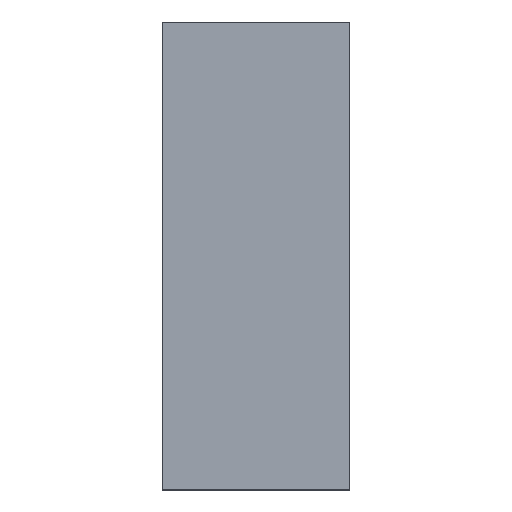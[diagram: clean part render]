
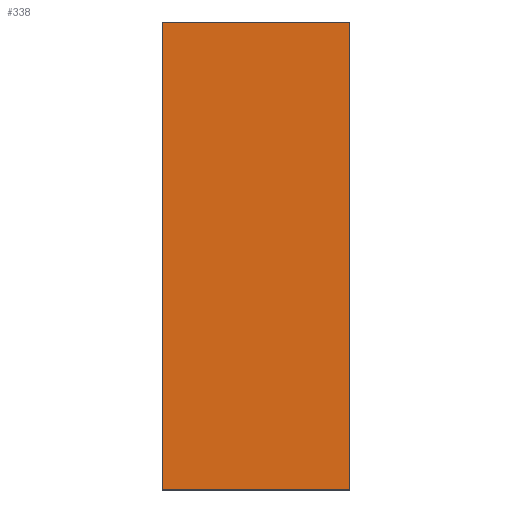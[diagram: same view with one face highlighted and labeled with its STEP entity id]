
A CAD part, top view. The second image highlights one B-rep face of the part: STEP entity #338.
In plain terms, the highlighted planar face has unit normal (0, 0, 1).
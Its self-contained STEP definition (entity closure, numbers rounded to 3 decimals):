
#24 = VERTEX_POINT('',#25);
#25 = CARTESIAN_POINT('',(-310.,-50.,-55.));
#32 = PLANE('',#33);
#33 = AXIS2_PLACEMENT_3D('',#34,#35,#36);
#34 = CARTESIAN_POINT('',(-310.,-50.,-67.));
#35 = DIRECTION('',(1.,0.,-0.));
#36 = DIRECTION('',(0.,0.,1.));
#44 = PLANE('',#45);
#45 = AXIS2_PLACEMENT_3D('',#46,#47,#48);
#46 = CARTESIAN_POINT('',(-310.,-50.,-67.));
#47 = DIRECTION('',(-0.,1.,0.));
#48 = DIRECTION('',(0.,0.,1.));
#85 = VERTEX_POINT('',#86);
#86 = CARTESIAN_POINT('',(-310.,50.,-55.));
#100 = PLANE('',#101);
#101 = AXIS2_PLACEMENT_3D('',#102,#103,#104);
#102 = CARTESIAN_POINT('',(-310.,50.,-67.));
#103 = DIRECTION('',(-0.,1.,0.));
#104 = DIRECTION('',(0.,0.,1.));
#112 = EDGE_CURVE('',#24,#85,#113,.T.);
#113 = SURFACE_CURVE('',#114,(#118,#125),.PCURVE_S1.);
#114 = LINE('',#115,#116);
#115 = CARTESIAN_POINT('',(-310.,-50.,-55.));
#116 = VECTOR('',#117,1.);
#117 = DIRECTION('',(-0.,1.,0.));
#118 = PCURVE('',#32,#119);
#119 = DEFINITIONAL_REPRESENTATION('',(#120),#124);
#120 = LINE('',#121,#122);
#121 = CARTESIAN_POINT('',(12.,0.));
#122 = VECTOR('',#123,1.);
#123 = DIRECTION('',(0.,-1.));
#124 = ( GEOMETRIC_REPRESENTATION_CONTEXT(2) 
PARAMETRIC_REPRESENTATION_CONTEXT() REPRESENTATION_CONTEXT('2D SPACE',''
  ) );
#125 = PCURVE('',#126,#131);
#126 = PLANE('',#127);
#127 = AXIS2_PLACEMENT_3D('',#128,#129,#130);
#128 = CARTESIAN_POINT('',(-310.,-50.,-55.));
#129 = DIRECTION('',(0.,0.,1.));
#130 = DIRECTION('',(1.,0.,-0.));
#131 = DEFINITIONAL_REPRESENTATION('',(#132),#136);
#132 = LINE('',#133,#134);
#133 = CARTESIAN_POINT('',(0.,0.));
#134 = VECTOR('',#135,1.);
#135 = DIRECTION('',(0.,1.));
#136 = ( GEOMETRIC_REPRESENTATION_CONTEXT(2) 
PARAMETRIC_REPRESENTATION_CONTEXT() REPRESENTATION_CONTEXT('2D SPACE',''
  ) );
#144 = VERTEX_POINT('',#145);
#145 = CARTESIAN_POINT('',(-270.,-50.,-55.));
#152 = PLANE('',#153);
#153 = AXIS2_PLACEMENT_3D('',#154,#155,#156);
#154 = CARTESIAN_POINT('',(-270.,-50.,-67.));
#155 = DIRECTION('',(1.,0.,-0.));
#156 = DIRECTION('',(0.,0.,1.));
#195 = VERTEX_POINT('',#196);
#196 = CARTESIAN_POINT('',(-270.,50.,-55.));
#217 = EDGE_CURVE('',#144,#195,#218,.T.);
#218 = SURFACE_CURVE('',#219,(#223,#230),.PCURVE_S1.);
#219 = LINE('',#220,#221);
#220 = CARTESIAN_POINT('',(-270.,-50.,-55.));
#221 = VECTOR('',#222,1.);
#222 = DIRECTION('',(-0.,1.,0.));
#223 = PCURVE('',#152,#224);
#224 = DEFINITIONAL_REPRESENTATION('',(#225),#229);
#225 = LINE('',#226,#227);
#226 = CARTESIAN_POINT('',(12.,0.));
#227 = VECTOR('',#228,1.);
#228 = DIRECTION('',(0.,-1.));
#229 = ( GEOMETRIC_REPRESENTATION_CONTEXT(2) 
PARAMETRIC_REPRESENTATION_CONTEXT() REPRESENTATION_CONTEXT('2D SPACE',''
  ) );
#230 = PCURVE('',#126,#231);
#231 = DEFINITIONAL_REPRESENTATION('',(#232),#236);
#232 = LINE('',#233,#234);
#233 = CARTESIAN_POINT('',(40.,0.));
#234 = VECTOR('',#235,1.);
#235 = DIRECTION('',(0.,1.));
#236 = ( GEOMETRIC_REPRESENTATION_CONTEXT(2) 
PARAMETRIC_REPRESENTATION_CONTEXT() REPRESENTATION_CONTEXT('2D SPACE',''
  ) );
#263 = EDGE_CURVE('',#24,#144,#264,.T.);
#264 = SURFACE_CURVE('',#265,(#269,#276),.PCURVE_S1.);
#265 = LINE('',#266,#267);
#266 = CARTESIAN_POINT('',(-310.,-50.,-55.));
#267 = VECTOR('',#268,1.);
#268 = DIRECTION('',(1.,0.,-0.));
#269 = PCURVE('',#44,#270);
#270 = DEFINITIONAL_REPRESENTATION('',(#271),#275);
#271 = LINE('',#272,#273);
#272 = CARTESIAN_POINT('',(12.,0.));
#273 = VECTOR('',#274,1.);
#274 = DIRECTION('',(0.,1.));
#275 = ( GEOMETRIC_REPRESENTATION_CONTEXT(2) 
PARAMETRIC_REPRESENTATION_CONTEXT() REPRESENTATION_CONTEXT('2D SPACE',''
  ) );
#276 = PCURVE('',#126,#277);
#277 = DEFINITIONAL_REPRESENTATION('',(#278),#282);
#278 = LINE('',#279,#280);
#279 = CARTESIAN_POINT('',(0.,0.));
#280 = VECTOR('',#281,1.);
#281 = DIRECTION('',(1.,0.));
#282 = ( GEOMETRIC_REPRESENTATION_CONTEXT(2) 
PARAMETRIC_REPRESENTATION_CONTEXT() REPRESENTATION_CONTEXT('2D SPACE',''
  ) );
#310 = EDGE_CURVE('',#85,#195,#311,.T.);
#311 = SURFACE_CURVE('',#312,(#316,#323),.PCURVE_S1.);
#312 = LINE('',#313,#314);
#313 = CARTESIAN_POINT('',(-310.,50.,-55.));
#314 = VECTOR('',#315,1.);
#315 = DIRECTION('',(1.,0.,-0.));
#316 = PCURVE('',#100,#317);
#317 = DEFINITIONAL_REPRESENTATION('',(#318),#322);
#318 = LINE('',#319,#320);
#319 = CARTESIAN_POINT('',(12.,0.));
#320 = VECTOR('',#321,1.);
#321 = DIRECTION('',(0.,1.));
#322 = ( GEOMETRIC_REPRESENTATION_CONTEXT(2) 
PARAMETRIC_REPRESENTATION_CONTEXT() REPRESENTATION_CONTEXT('2D SPACE',''
  ) );
#323 = PCURVE('',#126,#324);
#324 = DEFINITIONAL_REPRESENTATION('',(#325),#329);
#325 = LINE('',#326,#327);
#326 = CARTESIAN_POINT('',(0.,100.));
#327 = VECTOR('',#328,1.);
#328 = DIRECTION('',(1.,0.));
#329 = ( GEOMETRIC_REPRESENTATION_CONTEXT(2) 
PARAMETRIC_REPRESENTATION_CONTEXT() REPRESENTATION_CONTEXT('2D SPACE',''
  ) );
#338 = ADVANCED_FACE('',(#339),#126,.T.);
#339 = FACE_BOUND('',#340,.T.);
#340 = EDGE_LOOP('',(#341,#342,#343,#344));
#341 = ORIENTED_EDGE('',*,*,#112,.F.);
#342 = ORIENTED_EDGE('',*,*,#263,.T.);
#343 = ORIENTED_EDGE('',*,*,#217,.T.);
#344 = ORIENTED_EDGE('',*,*,#310,.F.);
